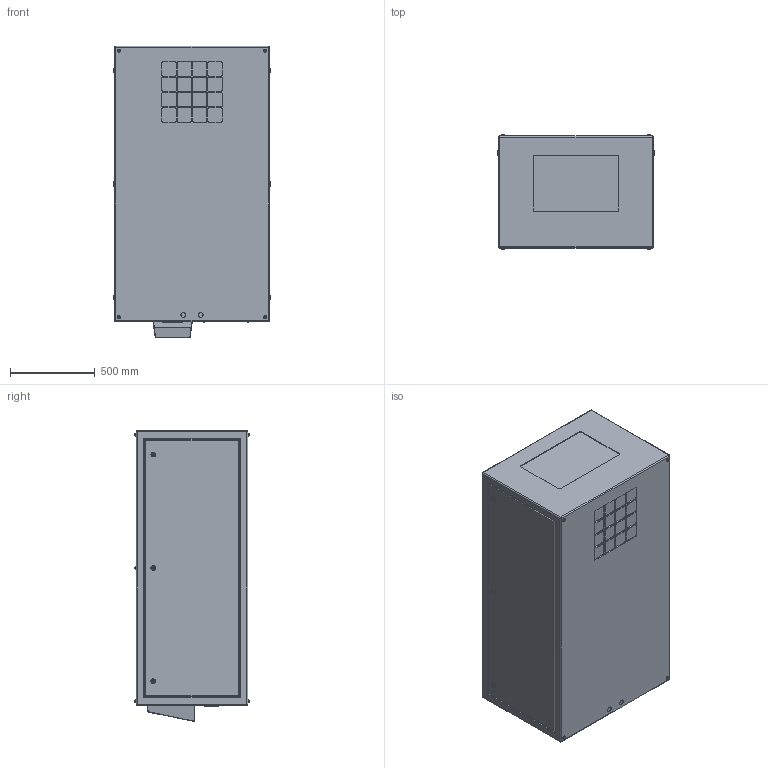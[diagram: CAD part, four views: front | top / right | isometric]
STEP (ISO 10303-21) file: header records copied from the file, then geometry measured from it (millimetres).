
FILE_DESCRIPTION (( 'STEP AP214' ), '1' );
FILE_NAME ('Cyclone 55.525.L R10.STEP', '2022-09-08T22:08:57', ( '' ), ( '' ), 'SwSTEP 2.0', 'SolidWorks 2020', '' );
FILE_SCHEMA (( 'AUTOMOTIVE_DESIGN' ));
Length unit declared in the file: inch
Products named in the file (1): Cyclone 55.525.L R10
Bounding box: 927.1 x 675 x 1720.85 mm (x, y, z)
Volume: 979915045.5 mm3; surface area: 6846571.7 mm2
Topology: 1 solids, 7 shells, 532 faces, 1256 edges, 804 vertices
Faces by surface type: plane 260, cylinder 220, torus 44, sphere 8
Entity records: 19325 total; most frequent: CARTESIAN_POINT 3129, DIRECTION 2694, ORIENTED_EDGE 2496, EDGE_CURVE 1248, AXIS2_PLACEMENT_3D 1009, VERTEX_POINT 804, VECTOR 676, LINE 676
